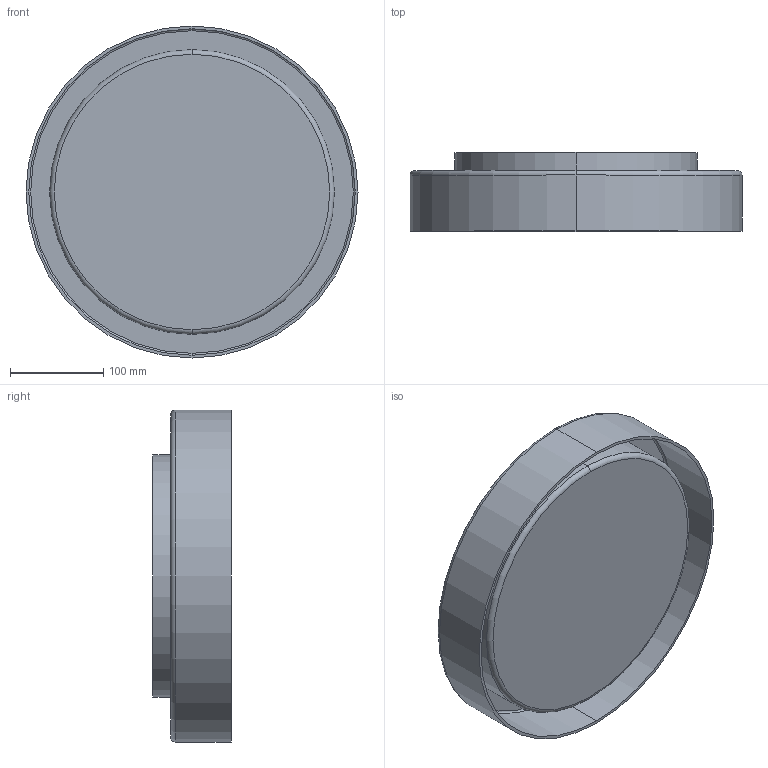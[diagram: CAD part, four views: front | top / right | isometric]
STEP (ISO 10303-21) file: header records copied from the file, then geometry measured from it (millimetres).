
FILE_DESCRIPTION (( 'STEP AP203' ), '1' );
FILE_NAME ('FM48614.STEP', '2023-08-04T18:34:55', ( '' ), ( '' ), 'SwSTEP 2.0', 'SolidWorks 2018', '' );
FILE_SCHEMA (( 'CONFIG_CONTROL_DESIGN' ));
Length unit declared in the file: millimetre
Products named in the file (1): FM48614
Bounding box: 356 x 84.21 x 356 mm (x, y, z)
Volume: 860073.3 mm3; surface area: 531277 mm2
Topology: 2 solids, 2 shells, 42 faces, 82 edges, 48 vertices
Faces by surface type: torus 20, cylinder 14, plane 8
Entity records: 1173 total; most frequent: DIRECTION 236, CARTESIAN_POINT 173, ORIENTED_EDGE 164, AXIS2_PLACEMENT_3D 111, EDGE_CURVE 82, CIRCLE 68, VERTEX_POINT 48, EDGE_LOOP 48
